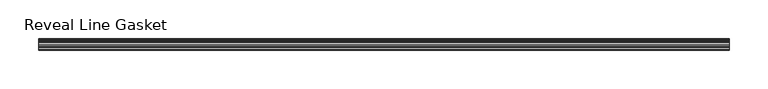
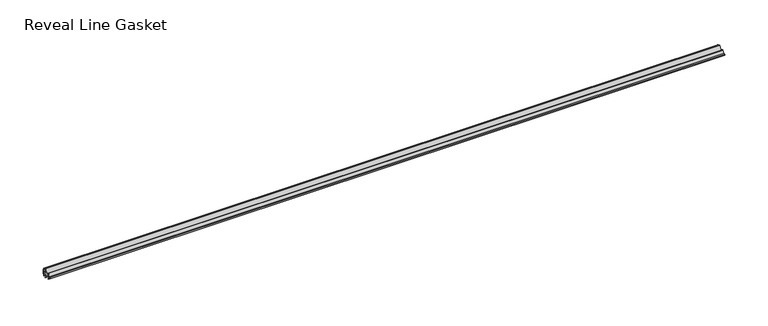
"""IFC4 building model written with IfcOpenShell, lengths in millimetres: proxy geometry, Accessories-Teknion-FHGR-AI_Healthcare-Reveal_Line_Gasket(Horizontal)-R2022 : Reveal Line Gasket."""

from ifc_helpers import new_model, si_unit, point, frame, frame_2d, origin, place, context, project, spatial, polyline, circle_curve, trimmed, segment, composite_curve, outline, extrude, source, transform, mapped, element, save


def reveal_line_gasket_9a14d27f(model_context):
    return source(origin(), model_context, "Body", "SweptSolid", [
        extrude(outline(composite_curve([segment(polyline([(7.6326998, 1603.2), (7.6326998, 1597.2), (7.4091917, 1596.2445073), (6.8813059, 1595.3115316)]), True, "CONTINUOUS"), segment(trimmed(circle_curve(frame_2d((6.5243141, 1595.5135207)), 0.4101739), [point((6.8813059, 1595.3115316))], [point((6.1246704, 1595.6058653))], False, "CARTESIAN"), True, "CONTINUOUS"), segment(polyline([(6.1246704, 1595.6058653), (6.3626997, 1597.3020914), (6.3626997, 1599.3345473)]), True, "CONTINUOUS"), segment(trimmed(circle_curve(frame_2d((5.6959605, 1598.9180742)), 0.786124), [point((6.3626997, 1599.3345473))], [point((5.0926996, 1599.422125))], True, "CARTESIAN"), True, "CONTINUOUS"), segment(polyline([(5.0926996, 1599.422125), (0.7492996, 1599.422125), (3.7293824, 1594.2604705)]), True, "CONTINUOUS"), segment(trimmed(circle_curve(frame_2d((3.3132479, 1594.1950239)), 0.4212495), [point((3.7293824, 1594.2604705))], [point((3.0485022, 1593.8673642))], False, "CARTESIAN"), True, "CONTINUOUS"), segment(polyline([(3.0485022, 1593.8673642), (-0.5742594, 1599.422125), (-4.8262978, 1599.422125), (-3.1660374, 1596.5464703)]), True, "CONTINUOUS"), segment(trimmed(circle_curve(frame_2d((-3.5978728, 1596.4881145)), 0.4357605), [point((-3.1660374, 1596.5464703))], [point((-3.864328, 1596.1433119))], False, "CARTESIAN"), True, "CONTINUOUS"), segment(polyline([(-3.864328, 1596.1433119), (-6.1944059, 1599.422125), (-7.6326998, 1599.422125), (-7.6326998, 1600.977875), (-6.1944059, 1600.977875), (-3.864328, 1604.2566881)]), True, "CONTINUOUS"), segment(trimmed(circle_curve(frame_2d((-3.5978728, 1603.9118855)), 0.4357605), [point((-3.864328, 1604.2566881))], [point((-3.1660374, 1603.8535297))], False, "CARTESIAN"), True, "CONTINUOUS"), segment(polyline([(-3.1660374, 1603.8535297), (-4.8262978, 1600.977875), (-0.5742594, 1600.977875), (3.0485022, 1606.5326358)]), True, "CONTINUOUS"), segment(trimmed(circle_curve(frame_2d((3.3132479, 1606.2049761)), 0.4212495), [point((3.0485022, 1606.5326358))], [point((3.7293824, 1606.1395295))], False, "CARTESIAN"), True, "CONTINUOUS"), segment(polyline([(3.7293824, 1606.1395295), (0.7492996, 1600.977875), (5.0926996, 1600.977875)]), True, "CONTINUOUS"), segment(trimmed(circle_curve(frame_2d((5.6959605, 1601.4819258)), 0.786124), [point((5.0926996, 1600.977875))], [point((6.3626997, 1601.0654527))], True, "CARTESIAN"), True, "CONTINUOUS"), segment(polyline([(6.3626997, 1601.0654527), (6.3626997, 1603.0979086), (6.1246704, 1604.7941347)]), True, "CONTINUOUS"), segment(trimmed(circle_curve(frame_2d((6.5243141, 1604.8864793)), 0.4101739), [point((6.1246704, 1604.7941347))], [point((6.8813059, 1605.0884684))], False, "CARTESIAN"), True, "CONTINUOUS"), segment(polyline([(6.8813059, 1605.0884684), (7.4091917, 1604.1554927), (7.6326998, 1603.2)]), True, "CONTINUOUS")], self_intersect=False)), frame((-448.1315163, 0.0, 0.0), z_axis=(1.0, 0.0, 0.0), x_axis=(0.0, 1.0, 0.0)), (0.0, 0.0, 1.0), 896.2630326),
    ])


if __name__ == "__main__":
    model = new_model("IFC4")
    model_context = context("Model", 3, world=origin())
    ifc_project = project(units=[si_unit("LENGTHUNIT", "METRE", prefix="MILLI")], contexts=[model_context])
    site = spatial("IfcSite", under=ifc_project)
    building = spatial("IfcBuilding", under=site)
    placement = place(None, origin())
    reveal_line_gasket_shape = reveal_line_gasket_9a14d27f(model_context)
    element("IfcBuildingElementProxy", 1, Name="Accessories-Teknion-FHGR-AI_Healthcare-Reveal_Line_Gasket(Horizontal)-R2022 : Reveal Line Gasket", ObjectType="Accessories-Teknion-FHGR-AI_Healthcare-Reveal_Line_Gasket(Horizontal)-R2022 : Reveal Line Gasket", at=placement, inside=building, context=model_context, shape_type="MappedRepresentation", body=[
        mapped(reveal_line_gasket_shape, transform((0.0, 0.0, 0.0), x_axis=(1.0, 0.0, 0.0), y_axis=(0.0, 1.0, 0.0), z_axis=(0.0, 0.0, 1.0))),
    ])
    save(model, "model.ifc")
